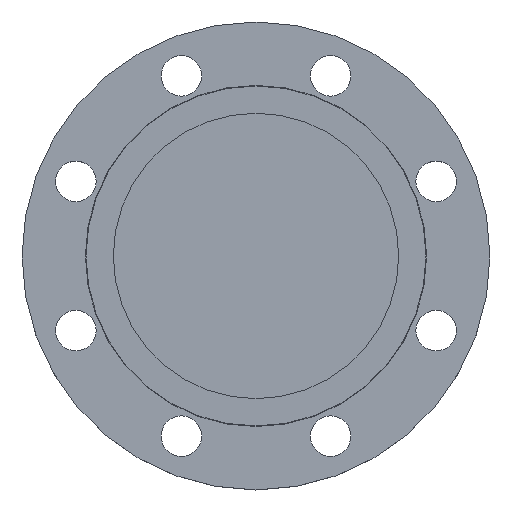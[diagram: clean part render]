
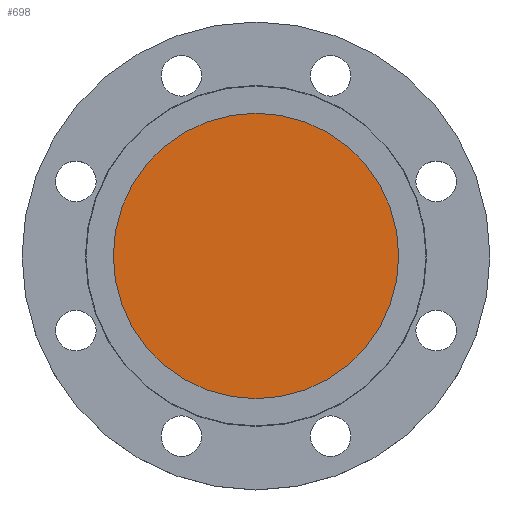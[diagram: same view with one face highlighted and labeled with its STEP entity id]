
A CAD part, top view. The second image highlights one B-rep face of the part: STEP entity #698.
In plain terms, the highlighted planar face has unit normal (0, 0, 1).
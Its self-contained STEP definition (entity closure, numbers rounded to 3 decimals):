
#12 = CIRCLE ( 'NONE', #943, 91.5 ) ;
#37 = CIRCLE ( 'NONE', #971, 91.5 ) ;
#80 = CARTESIAN_POINT ( 'NONE',  ( 91.5, 0., -5. ) ) ;
#82 = CARTESIAN_POINT ( 'NONE',  ( -91.5, 0., -5. ) ) ;
#201 = DIRECTION ( 'NONE',  ( -1., 0., 0. ) ) ;
#202 = DIRECTION ( 'NONE',  ( 0., 0., -1. ) ) ;
#208 = CARTESIAN_POINT ( 'NONE',  ( 0., 0., -5. ) ) ;
#405 = DIRECTION ( 'NONE',  ( 1., 0., 0. ) ) ;
#406 = DIRECTION ( 'NONE',  ( 0., 0., 1. ) ) ;
#407 = CARTESIAN_POINT ( 'NONE',  ( 0., 0., -5. ) ) ;
#408 = PLANE ( 'NONE',  #684 ) ;
#409 = FACE_OUTER_BOUND ( 'NONE', #535, .T. ) ;
#444 = DIRECTION ( 'NONE',  ( -1., 0., 0. ) ) ;
#445 = DIRECTION ( 'NONE',  ( 0., 0., -1. ) ) ;
#446 = CARTESIAN_POINT ( 'NONE',  ( 0., 0., -5. ) ) ;
#535 = EDGE_LOOP ( 'NONE', ( #731, #733 ) ) ;
#623 = EDGE_CURVE ( 'NONE', #997, #1002, #12, .T. ) ;
#684 = AXIS2_PLACEMENT_3D ( 'NONE', #407, #406, #405 ) ;
#698 = ADVANCED_FACE ( 'NONE', ( #409 ), #408, .T. ) ;
#731 = ORIENTED_EDGE ( 'NONE', *, *, #623, .F. ) ;
#733 = ORIENTED_EDGE ( 'NONE', *, *, #914, .F. ) ;
#914 = EDGE_CURVE ( 'NONE', #1002, #997, #37, .T. ) ;
#943 = AXIS2_PLACEMENT_3D ( 'NONE', #446, #445, #444 ) ;
#971 = AXIS2_PLACEMENT_3D ( 'NONE', #208, #202, #201 ) ;
#997 = VERTEX_POINT ( 'NONE', #82 ) ;
#1002 = VERTEX_POINT ( 'NONE', #80 ) ;
